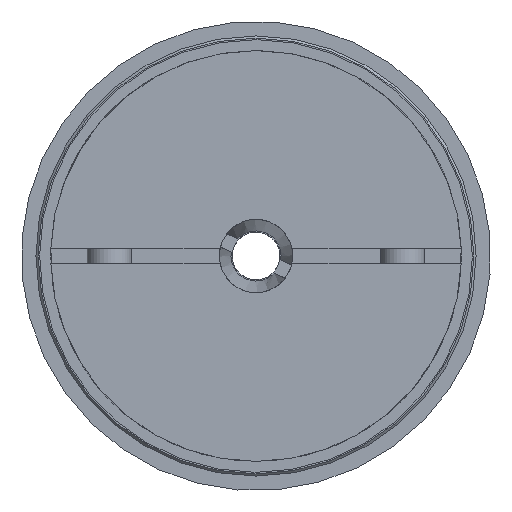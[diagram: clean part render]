
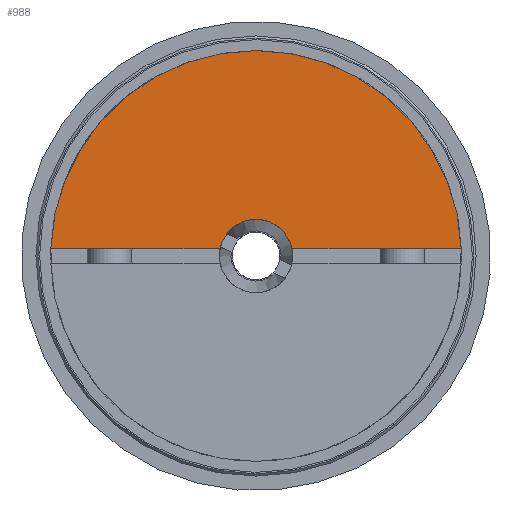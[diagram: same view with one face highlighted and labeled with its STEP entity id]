
A CAD part, left-side view. The second image highlights one B-rep face of the part: STEP entity #988.
In plain terms, the highlighted planar face has unit normal (-1, 0, 0) as drawn and (0, -1, 0) by its records, which use the part's own axes.
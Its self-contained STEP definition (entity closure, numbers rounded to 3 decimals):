
#988 = ADVANCED_FACE( '', ( #1827 ), #1828, .F. );
#1827 = FACE_OUTER_BOUND( '', #2742, .T. );
#1828 = PLANE( '', #2743 );
#2742 = EDGE_LOOP( '', ( #3930, #3931, #3932, #3933 ) );
#2743 = AXIS2_PLACEMENT_3D( '', #3934, #3935, #3936 );
#3930 = ORIENTED_EDGE( '', *, *, #4933, .F. );
#3931 = ORIENTED_EDGE( '', *, *, #4862, .F. );
#3932 = ORIENTED_EDGE( '', *, *, #4666, .F. );
#3933 = ORIENTED_EDGE( '', *, *, #4934, .T. );
#3934 = CARTESIAN_POINT( '', ( 0., -27., 0. ) );
#3935 = DIRECTION( '', ( 0., 1., 0. ) );
#3936 = DIRECTION( '', ( 0., 0., 1. ) );
#4666 = EDGE_CURVE( '', #5505, #5507, #5508, .T. );
#4862 = EDGE_CURVE( '', #5507, #5806, #5807, .T. );
#4933 = EDGE_CURVE( '', #5806, #5908, #5909, .T. );
#4934 = EDGE_CURVE( '', #5505, #5908, #5910, .T. );
#5505 = VERTEX_POINT( '', #6279 );
#5507 = VERTEX_POINT( '', #6282 );
#5508 = LINE( '', #6283, #6284 );
#5806 = VERTEX_POINT( '', #7203 );
#5807 = CIRCLE( '', #7204, 28. );
#5908 = VERTEX_POINT( '', #7593 );
#5909 = LINE( '', #7594, #7595 );
#5910 = CIRCLE( '', #7596, 5. );
#6279 = CARTESIAN_POINT( '', ( -4.899, -27., 1. ) );
#6282 = CARTESIAN_POINT( '', ( -27.982, -27., 1. ) );
#6283 = CARTESIAN_POINT( '', ( 0., -27., 1. ) );
#6284 = VECTOR( '', #8278, 1000. );
#7203 = CARTESIAN_POINT( '', ( 27.982, -27., 1. ) );
#7204 = AXIS2_PLACEMENT_3D( '', #8569, #8570, #8571 );
#7593 = CARTESIAN_POINT( '', ( 4.899, -27., 1. ) );
#7594 = CARTESIAN_POINT( '', ( 0., -27., 1. ) );
#7595 = VECTOR( '', #8653, 1000. );
#7596 = AXIS2_PLACEMENT_3D( '', #8654, #8655, #8656 );
#8278 = DIRECTION( '', ( -1., 0., 0. ) );
#8569 = CARTESIAN_POINT( '', ( 0., -27., 0. ) );
#8570 = DIRECTION( '', ( 0., 1., 0. ) );
#8571 = DIRECTION( '', ( 1., 0., 0. ) );
#8653 = DIRECTION( '', ( -1., 0., 0. ) );
#8654 = CARTESIAN_POINT( '', ( 0., -27., 0. ) );
#8655 = DIRECTION( '', ( 0., 1., 0. ) );
#8656 = DIRECTION( '', ( 1., 0., 0. ) );
